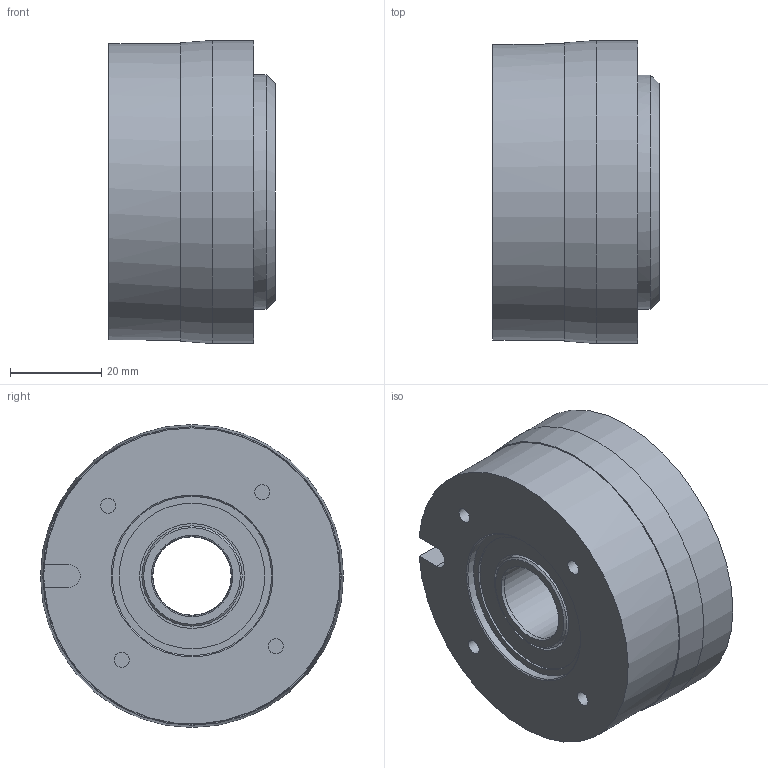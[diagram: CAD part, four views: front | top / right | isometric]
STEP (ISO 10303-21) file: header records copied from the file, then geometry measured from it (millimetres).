
FILE_DESCRIPTION (( 'STEP AP214' ), '1' );
FILE_NAME ('86_61106Pxx_PF-ID 187845_Index c.STEP', '2020-02-06T08:32:33', ( '' ), ( '' ), 'SwSTEP 2.0', 'SolidWorks 2018', '' );
FILE_SCHEMA (( 'AUTOMOTIVE_DESIGN' ));
Length unit declared in the file: millimetre
Products named in the file (1): 86_61106Pxx_PF-ID 187845_Index c
Bounding box: 36.5 x 66.5 x 66.5 mm (x, y, z)
Volume: 99167.5 mm3; surface area: 28442 mm2
Topology: 2 solids, 2 shells, 56 faces, 99 edges, 63 vertices
Faces by surface type: plane 24, cylinder 23, cone 8, torus 1
Full cylindrical faces by diameter (mm): 3.3 x7, 4.4 x1, 17.2 x1, 17.4 x1, 22 x1, 23 x1, 25 x1, 32 x1, 35 x1, 50.2 x1, 56 x1, 62 x1, 63 x1, 64.5 x1, 65 x1, 66.5 x1
Entity records: 1504 total; most frequent: CARTESIAN_POINT 381, DIRECTION 226, ORIENTED_EDGE 132, AXIS2_PLACEMENT_3D 109, EDGE_LOOP 108, FACE_OUTER_BOUND 79, EDGE_CURVE 66, VERTEX_POINT 60
